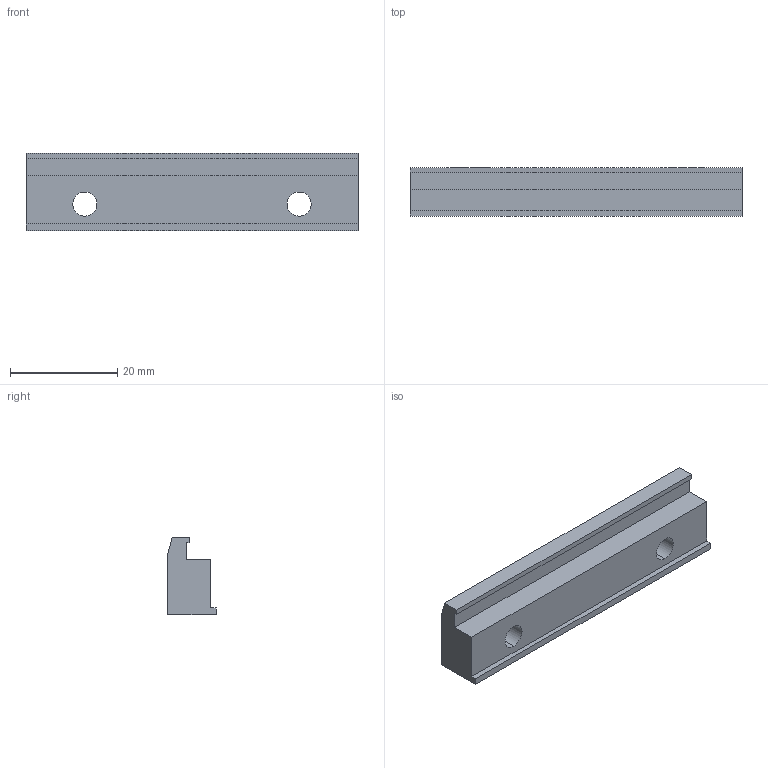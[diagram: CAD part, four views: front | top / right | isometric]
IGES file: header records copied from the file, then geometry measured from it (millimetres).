
Start section:  PTC IGES file: R037531033\r037531033.iges
Global section: file name: R037531033\r037531033.iges; native system: Creo Parametric by PTC Inc.; preprocessor: 2023092; author: THD3HC; organization: Unknown; date: 20240711.174735; units: millimetre
Bounding box: 62 x 9 x 14.5 mm (x, y, z)
Surface area: 3387.6 mm2 (no closed solid volume)
Topology: 0 solids, 0 shells, 23 faces, 114 edges, 114 vertices
Faces by surface type: bspline 15, revolution 8
